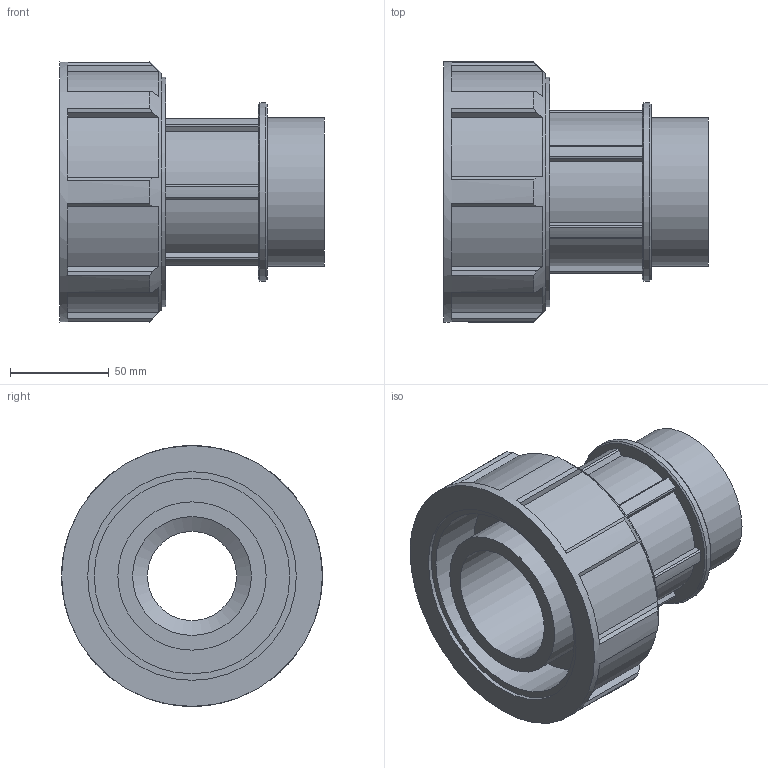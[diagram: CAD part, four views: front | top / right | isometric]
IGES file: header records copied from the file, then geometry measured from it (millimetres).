
Global section: file name: 072500075025_182500075025.ipt; native system: Autodesk Inventor 2015; preprocessor: unknown; author: KIM; date: 20170608.042212; units: millimetre
Bounding box: 134 x 132 x 132 mm (x, y, z)
Volume: 570012.1 mm3; surface area: 121007.4 mm2
Topology: 1 solids, 1 shells, 108 faces, 300 edges, 202 vertices
Faces by surface type: plane 74, cylinder 25, revolution 6, cone 3
Full cylindrical faces by diameter (mm): 75 x1, 75.184 x1, 90.221 x1, 116.16 x1, 132 x1
